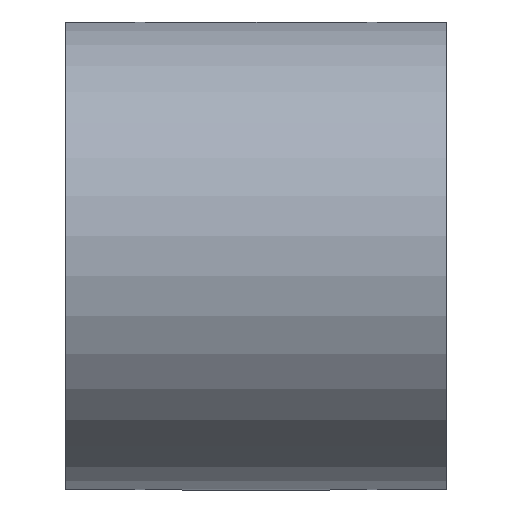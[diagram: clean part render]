
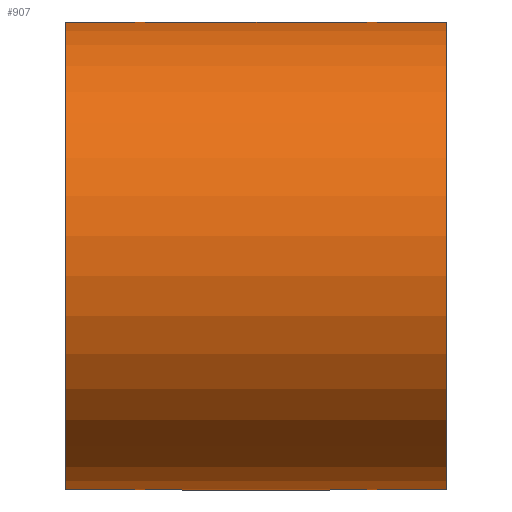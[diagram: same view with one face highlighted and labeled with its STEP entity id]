
A CAD part, left-side view. The second image highlights one B-rep face of the part: STEP entity #907.
In plain terms, the highlighted cylindrical face has radius 8 mm (diameter 16 mm), a partial arc.
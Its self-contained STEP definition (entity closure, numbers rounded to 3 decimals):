
#37=B_SPLINE_CURVE_WITH_KNOTS('',3,(#2112,#2113,#2114,#2115,#2116,#2117,
#2118,#2119,#2120,#2121),.UNSPECIFIED.,.F.,.F.,(4,2,1,1,1,1,4),(-0.002,
0.,0.204,0.408,0.611,0.815,
1.019),.UNSPECIFIED.);
#38=B_SPLINE_CURVE_WITH_KNOTS('',3,(#2187,#2188,#2189,#2190,#2191,#2192,
#2193,#2194,#2195,#2196,#2197,#2198),.UNSPECIFIED.,.F.,.F.,(4,1,1,1,1,1,
1,2,4),(0.,0.204,0.408,0.611,
0.713,0.815,0.917,1.019,1.02),
 .UNSPECIFIED.);
#40=B_SPLINE_CURVE_WITH_KNOTS('',3,(#2255,#2256,#2257,#2258,#2259,#2260,
#2261,#2262),.UNSPECIFIED.,.F.,.F.,(4,2,1,1,4),(-0.002,0.,
0.611,0.815,1.019),.UNSPECIFIED.);
#41=B_SPLINE_CURVE_WITH_KNOTS('',3,(#2326,#2327,#2328,#2329,#2330,#2331,
#2332,#2333,#2334,#2335,#2336,#2337),.UNSPECIFIED.,.F.,.F.,(4,1,1,1,1,1,
1,2,4),(0.,0.204,0.306,0.408,0.509,
0.611,0.815,1.019,1.02),
 .UNSPECIFIED.);
#102=CYLINDRICAL_SURFACE('',#1043,8.);
#159=FACE_OUTER_BOUND('',#227,.T.);
#227=EDGE_LOOP('',(#801,#802,#803,#804,#805,#806,#807,#808));
#272=LINE('',#2406,#313);
#273=LINE('',#2408,#314);
#313=VECTOR('',#1295,10.);
#314=VECTOR('',#1298,10.);
#332=CIRCLE('',#959,8.);
#335=CIRCLE('',#964,8.);
#395=VERTEX_POINT('',#1361);
#396=VERTEX_POINT('',#1362);
#398=VERTEX_POINT('',#1370);
#399=VERTEX_POINT('',#1371);
#427=VERTEX_POINT('',#1722);
#441=VERTEX_POINT('',#2101);
#443=VERTEX_POINT('',#2186);
#444=VERTEX_POINT('',#2325);
#471=EDGE_CURVE('',#395,#396,#332,.T.);
#475=EDGE_CURVE('',#398,#399,#335,.T.);
#544=EDGE_CURVE('',#441,#395,#37,.T.);
#547=EDGE_CURVE('',#396,#443,#38,.T.);
#552=EDGE_CURVE('',#427,#398,#40,.T.);
#554=EDGE_CURVE('',#399,#444,#41,.T.);
#577=EDGE_CURVE('',#443,#427,#272,.T.);
#578=EDGE_CURVE('',#444,#441,#273,.T.);
#801=ORIENTED_EDGE('',*,*,#547,.F.);
#802=ORIENTED_EDGE('',*,*,#471,.F.);
#803=ORIENTED_EDGE('',*,*,#544,.F.);
#804=ORIENTED_EDGE('',*,*,#578,.F.);
#805=ORIENTED_EDGE('',*,*,#554,.F.);
#806=ORIENTED_EDGE('',*,*,#475,.F.);
#807=ORIENTED_EDGE('',*,*,#552,.F.);
#808=ORIENTED_EDGE('',*,*,#577,.F.);
#907=ADVANCED_FACE('',(#159),#102,.T.);
#959=AXIS2_PLACEMENT_3D('',#1363,#1097,#1098);
#964=AXIS2_PLACEMENT_3D('',#1372,#1108,#1109);
#1043=AXIS2_PLACEMENT_3D('',#2407,#1296,#1297);
#1097=DIRECTION('center_axis',(0.,-1.,0.));
#1098=DIRECTION('ref_axis',(-1.,0.,0.));
#1108=DIRECTION('center_axis',(0.,1.,0.));
#1109=DIRECTION('ref_axis',(-1.,0.,0.));
#1295=DIRECTION('',(0.,1.,0.));
#1296=DIRECTION('center_axis',(0.,1.,0.));
#1297=DIRECTION('ref_axis',(-1.,0.,0.));
#1298=DIRECTION('',(0.,-1.,0.));
#1361=CARTESIAN_POINT('',(-53.6,-6.5,4.8));
#1362=CARTESIAN_POINT('',(-53.6,-6.5,-4.8));
#1363=CARTESIAN_POINT('Origin',(-60.,-6.5,0.));
#1370=CARTESIAN_POINT('',(-53.6,6.5,-4.8));
#1371=CARTESIAN_POINT('',(-53.6,6.5,4.8));
#1372=CARTESIAN_POINT('Origin',(-60.,6.5,0.));
#1722=CARTESIAN_POINT('',(-60.,2.5,-8.));
#2101=CARTESIAN_POINT('',(-60.,-2.5,8.));
#2112=CARTESIAN_POINT('Ctrl Pts',(-60.,-2.5,8.));
#2113=CARTESIAN_POINT('Ctrl Pts',(-59.997,-2.503,8.));
#2114=CARTESIAN_POINT('Ctrl Pts',(-59.993,-2.505,8.));
#2115=CARTESIAN_POINT('Ctrl Pts',(-59.53,-2.871,7.999));
#2116=CARTESIAN_POINT('Ctrl Pts',(-58.609,-3.6,7.919));
#2117=CARTESIAN_POINT('Ctrl Pts',(-57.246,-4.639,7.556));
#2118=CARTESIAN_POINT('Ctrl Pts',(-55.918,-5.567,6.934));
#2119=CARTESIAN_POINT('Ctrl Pts',(-54.666,-6.28,6.032));
#2120=CARTESIAN_POINT('Ctrl Pts',(-53.926,-6.5,5.235));
#2121=CARTESIAN_POINT('Ctrl Pts',(-53.6,-6.5,4.8));
#2186=CARTESIAN_POINT('',(-60.,-2.5,-8.));
#2187=CARTESIAN_POINT('Ctrl Pts',(-53.6,-6.5,-4.8));
#2188=CARTESIAN_POINT('Ctrl Pts',(-53.926,-6.5,-5.235));
#2189=CARTESIAN_POINT('Ctrl Pts',(-54.666,-6.28,-6.032));
#2190=CARTESIAN_POINT('Ctrl Pts',(-55.919,-5.566,-6.934));
#2191=CARTESIAN_POINT('Ctrl Pts',(-57.023,-4.795,-7.452));
#2192=CARTESIAN_POINT('Ctrl Pts',(-57.928,-4.119,-7.738));
#2193=CARTESIAN_POINT('Ctrl Pts',(-58.611,-3.594,-7.889));
#2194=CARTESIAN_POINT('Ctrl Pts',(-59.3,-3.053,-7.979));
#2195=CARTESIAN_POINT('Ctrl Pts',(-59.76,-2.69,-8.));
#2196=CARTESIAN_POINT('Ctrl Pts',(-59.993,-2.505,-8.));
#2197=CARTESIAN_POINT('Ctrl Pts',(-59.997,-2.503,-8.));
#2198=CARTESIAN_POINT('Ctrl Pts',(-60.,-2.5,-8.));
#2255=CARTESIAN_POINT('Ctrl Pts',(-60.,2.5,-8.));
#2256=CARTESIAN_POINT('Ctrl Pts',(-59.997,2.503,-8.));
#2257=CARTESIAN_POINT('Ctrl Pts',(-59.993,2.505,-8.));
#2258=CARTESIAN_POINT('Ctrl Pts',(-58.613,3.594,-7.997));
#2259=CARTESIAN_POINT('Ctrl Pts',(-56.756,5.084,-7.533));
#2260=CARTESIAN_POINT('Ctrl Pts',(-54.665,6.284,-6.033));
#2261=CARTESIAN_POINT('Ctrl Pts',(-53.926,6.5,-5.235));
#2262=CARTESIAN_POINT('Ctrl Pts',(-53.6,6.5,-4.8));
#2325=CARTESIAN_POINT('',(-60.,2.5,8.));
#2326=CARTESIAN_POINT('Ctrl Pts',(-53.6,6.5,4.8));
#2327=CARTESIAN_POINT('Ctrl Pts',(-53.926,6.5,5.235));
#2328=CARTESIAN_POINT('Ctrl Pts',(-54.481,6.335,5.833));
#2329=CARTESIAN_POINT('Ctrl Pts',(-55.292,5.923,6.483));
#2330=CARTESIAN_POINT('Ctrl Pts',(-55.929,5.54,6.9));
#2331=CARTESIAN_POINT('Ctrl Pts',(-56.581,5.104,7.244));
#2332=CARTESIAN_POINT('Ctrl Pts',(-57.474,4.466,7.617));
#2333=CARTESIAN_POINT('Ctrl Pts',(-58.608,3.6,7.919));
#2334=CARTESIAN_POINT('Ctrl Pts',(-59.53,2.871,7.999));
#2335=CARTESIAN_POINT('Ctrl Pts',(-59.993,2.505,8.));
#2336=CARTESIAN_POINT('Ctrl Pts',(-59.997,2.503,8.));
#2337=CARTESIAN_POINT('Ctrl Pts',(-60.,2.5,8.));
#2406=CARTESIAN_POINT('',(-60.,0.,-8.));
#2407=CARTESIAN_POINT('Origin',(-60.,0.,0.));
#2408=CARTESIAN_POINT('',(-60.,0.,8.));
